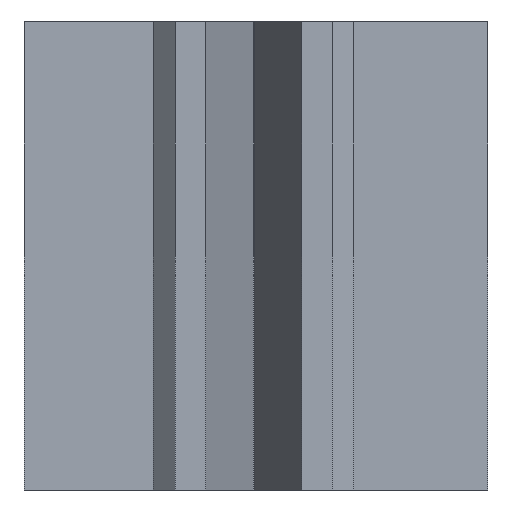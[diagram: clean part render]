
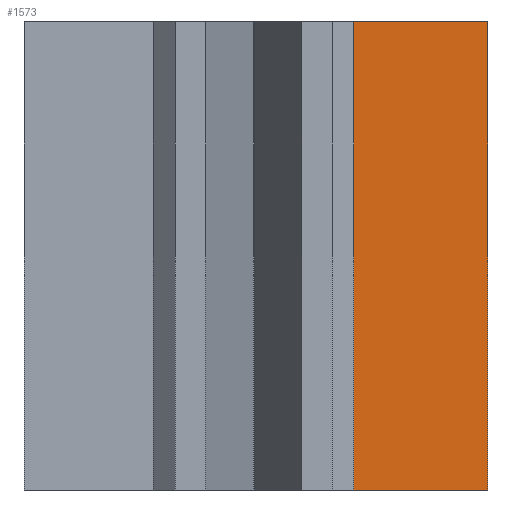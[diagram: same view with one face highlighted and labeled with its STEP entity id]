
A CAD part, front view. The second image highlights one B-rep face of the part: STEP entity #1573.
In plain terms, the highlighted planar face has unit normal (0, -1, 0).
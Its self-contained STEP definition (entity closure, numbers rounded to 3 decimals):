
#95=FACE_OUTER_BOUND('',#185,.T.);
#185=EDGE_LOOP('',(#1379,#1380,#1381,#1382));
#281=LINE('',#2233,#497);
#388=LINE('',#2447,#604);
#390=LINE('',#2450,#606);
#402=LINE('',#2474,#618);
#497=VECTOR('',#1829,10.);
#604=VECTOR('',#1982,10.);
#606=VECTOR('',#1986,10.);
#618=VECTOR('',#2022,10.);
#685=VERTEX_POINT('',#2230);
#686=VERTEX_POINT('',#2232);
#769=VERTEX_POINT('',#2444);
#770=VERTEX_POINT('',#2446);
#857=EDGE_CURVE('',#686,#685,#281,.T.);
#964=EDGE_CURVE('',#769,#770,#388,.T.);
#966=EDGE_CURVE('',#685,#770,#390,.T.);
#978=EDGE_CURVE('',#686,#769,#402,.T.);
#1379=ORIENTED_EDGE('',*,*,#857,.T.);
#1380=ORIENTED_EDGE('',*,*,#966,.T.);
#1381=ORIENTED_EDGE('',*,*,#964,.F.);
#1382=ORIENTED_EDGE('',*,*,#978,.F.);
#1491=PLANE('',#1657);
#1573=ADVANCED_FACE('',(#95),#1491,.T.);
#1657=AXIS2_PLACEMENT_3D('',#2473,#2020,#2021);
#1829=DIRECTION('',(1.,0.,0.));
#1982=DIRECTION('',(1.,0.,0.));
#1986=DIRECTION('',(0.,0.,1.));
#2020=DIRECTION('center_axis',(0.,-1.,0.));
#2021=DIRECTION('ref_axis',(1.,0.,0.));
#2022=DIRECTION('',(0.,0.,1.));
#2230=CARTESIAN_POINT('',(5.,0.,0.));
#2232=CARTESIAN_POINT('',(2.05,0.,0.));
#2233=CARTESIAN_POINT('',(1.7,0.,0.));
#2444=CARTESIAN_POINT('',(2.05,0.,10.));
#2446=CARTESIAN_POINT('',(5.,0.,10.));
#2447=CARTESIAN_POINT('',(1.7,0.,10.));
#2450=CARTESIAN_POINT('',(5.,0.,7.5));
#2473=CARTESIAN_POINT('Origin',(2.05,0.,0.));
#2474=CARTESIAN_POINT('',(2.05,0.,0.));
